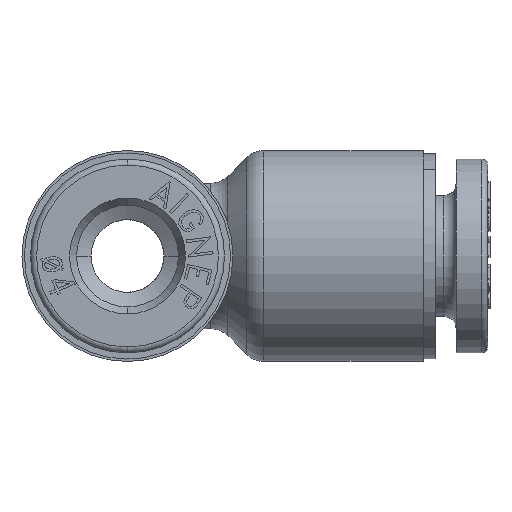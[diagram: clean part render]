
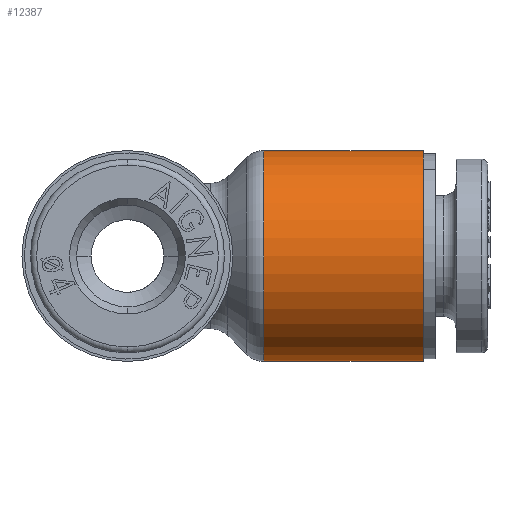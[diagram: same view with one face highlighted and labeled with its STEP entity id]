
A CAD part, left-side view. The second image highlights one B-rep face of the part: STEP entity #12387.
In plain terms, the highlighted cylindrical face has radius 4.35 mm (diameter 8.7 mm), a partial arc.
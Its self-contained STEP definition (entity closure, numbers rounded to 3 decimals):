
#1688 = CARTESIAN_POINT ( 'NONE',  ( 0., 6.586, 4.35 ) ) ;
#3796 = CARTESIAN_POINT ( 'NONE',  ( 0., 6.586, 0. ) ) ;
#4718 = DIRECTION ( 'NONE',  ( 0., 0., -1. ) ) ;
#6484 = LINE ( 'NONE', #11852, #26552 ) ;
#6874 = EDGE_CURVE ( 'NONE', #24318, #13095, #30399, .T. ) ;
#7392 = ORIENTED_EDGE ( 'NONE', *, *, #20083, .F. ) ;
#8213 = ORIENTED_EDGE ( 'NONE', *, *, #31339, .T. ) ;
#8716 = ORIENTED_EDGE ( 'NONE', *, *, #6874, .T. ) ;
#8831 = DIRECTION ( 'NONE',  ( 0., 0., -1. ) ) ;
#10089 = DIRECTION ( 'NONE',  ( 0., -1., 0. ) ) ;
#11583 = EDGE_LOOP ( 'NONE', ( #7392, #8213, #8716, #19090 ) ) ;
#11770 = DIRECTION ( 'NONE',  ( 0., -1., 0. ) ) ;
#11852 = CARTESIAN_POINT ( 'NONE',  ( 0., 0., 4.35 ) ) ;
#12387 = ADVANCED_FACE ( 'NONE', ( #22950 ), #28387, .T. ) ;
#12777 = AXIS2_PLACEMENT_3D ( 'NONE', #3796, #11770, #8831 ) ;
#13095 = VERTEX_POINT ( 'NONE', #27680 ) ;
#13941 = EDGE_CURVE ( 'NONE', #31107, #13095, #16318, .T. ) ;
#15346 = DIRECTION ( 'NONE',  ( 0., 0., -1. ) ) ;
#15956 = CARTESIAN_POINT ( 'NONE',  ( 0., 0., 4.35 ) ) ;
#16318 = CIRCLE ( 'NONE', #20778, 4.35 ) ;
#19090 = ORIENTED_EDGE ( 'NONE', *, *, #13941, .F. ) ;
#19620 = CARTESIAN_POINT ( 'NONE',  ( 0., 6.586, -4.35 ) ) ;
#20083 = EDGE_CURVE ( 'NONE', #22769, #31107, #6484, .T. ) ;
#20778 = AXIS2_PLACEMENT_3D ( 'NONE', #34066, #10089, #4718 ) ;
#22769 = VERTEX_POINT ( 'NONE', #1688 ) ;
#22950 = FACE_OUTER_BOUND ( 'NONE', #11583, .T. ) ;
#24318 = VERTEX_POINT ( 'NONE', #19620 ) ;
#24433 = CIRCLE ( 'NONE', #12777, 4.35 ) ;
#24836 = DIRECTION ( 'NONE',  ( 0., -1., 0. ) ) ;
#25002 = CARTESIAN_POINT ( 'NONE',  ( 0., 0., -4.35 ) ) ;
#26552 = VECTOR ( 'NONE', #27687, 1000. ) ;
#27680 = CARTESIAN_POINT ( 'NONE',  ( 0., 0., -4.35 ) ) ;
#27687 = DIRECTION ( 'NONE',  ( 0., -1., 0. ) ) ;
#28387 = CYLINDRICAL_SURFACE ( 'NONE', #30097, 4.35 ) ;
#28554 = DIRECTION ( 'NONE',  ( 0., -1., 0. ) ) ;
#30097 = AXIS2_PLACEMENT_3D ( 'NONE', #34111, #28554, #15346 ) ;
#30399 = LINE ( 'NONE', #25002, #31783 ) ;
#31107 = VERTEX_POINT ( 'NONE', #15956 ) ;
#31339 = EDGE_CURVE ( 'NONE', #22769, #24318, #24433, .T. ) ;
#31783 = VECTOR ( 'NONE', #24836, 1000. ) ;
#34066 = CARTESIAN_POINT ( 'NONE',  ( 0., 0., 0. ) ) ;
#34111 = CARTESIAN_POINT ( 'NONE',  ( 0., 0., 0. ) ) ;
